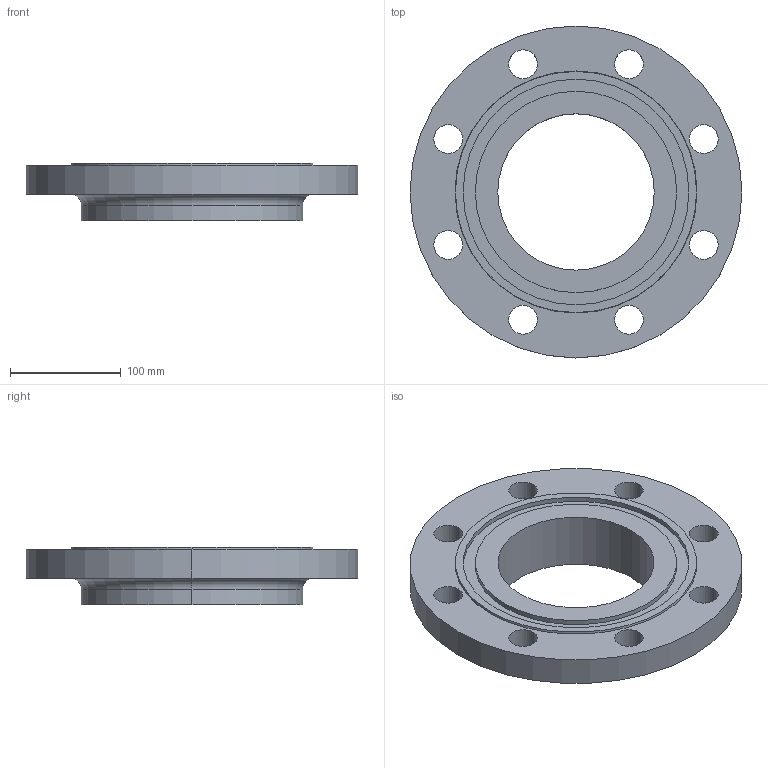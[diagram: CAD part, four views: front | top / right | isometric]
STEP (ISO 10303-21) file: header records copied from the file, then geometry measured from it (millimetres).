
FILE_DESCRIPTION (( 'STEP AP214' ), '1' );
FILE_NAME ('PN40 DN150 Type 13 - Type D Face.STEP', '2019-01-04T21:57:26', ( '' ), ( '' ), 'SwSTEP 2.0', 'SolidWorks 2019', '' );
FILE_SCHEMA (( 'AUTOMOTIVE_DESIGN' ));
Length unit declared in the file: millimetre
Products named in the file (1): PN40 DN150 Type 13 - Type D Face
Bounding box: 300 x 300 x 52 mm (x, y, z)
Volume: 1724170.2 mm3; surface area: 185116.4 mm2
Topology: 1 solids, 1 shells, 36 faces, 88 edges, 58 vertices
Faces by surface type: cylinder 26, plane 6, torus 2, cone 2
Entity records: 1166 total; most frequent: DIRECTION 222, CARTESIAN_POINT 183, ORIENTED_EDGE 176, AXIS2_PLACEMENT_3D 97, EDGE_CURVE 88, CIRCLE 60, VERTEX_POINT 58, EDGE_LOOP 58
